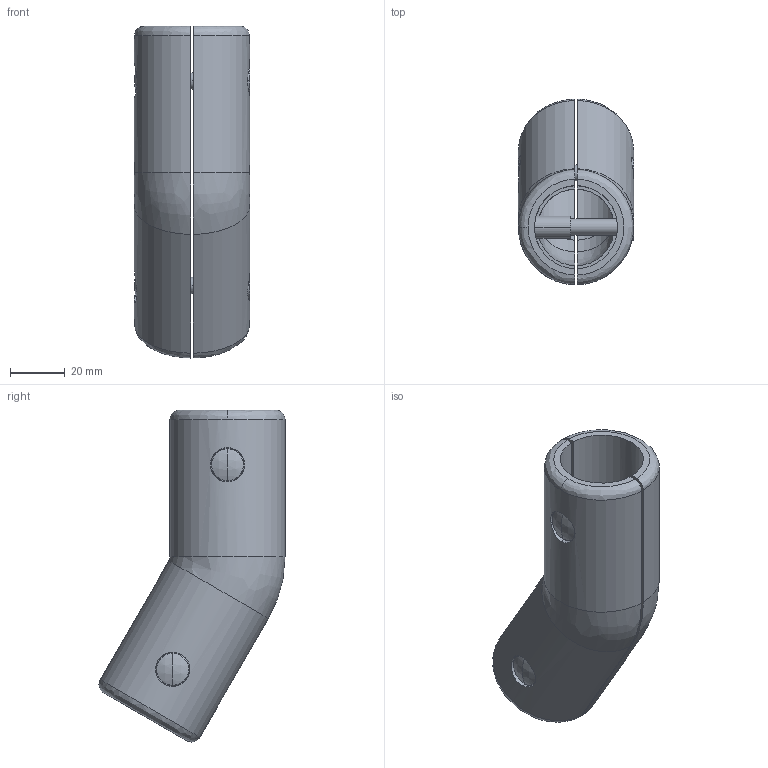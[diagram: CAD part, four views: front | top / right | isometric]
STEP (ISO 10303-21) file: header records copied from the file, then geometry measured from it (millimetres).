
FILE_DESCRIPTION (( 'STEP AP214' ), '1' );
FILE_NAME ('31000410028.STEP', '2024-09-02T09:39:10', ( '' ), ( '' ), 'SwSTEP 2.0', 'SolidWorks 2016', '' );
FILE_SCHEMA (( 'AUTOMOTIVE_DESIGN' ));
Length unit declared in the file: millimetre
Products named in the file (5): 31000410028; 2380_Schale 2; DIN 6912  (Regelgewinde) M6 x 25; 2380_Schale 1; 635179_H³lsenmutter
Assembly tree (6 placements, depth 2):
  31000410028
    2380_Schale 1
    2380_Schale 2
    635179_H³lsenmutter  x2
    DIN 6912  (Regelgewinde) M6 x 25  x2
Bounding box: 42 x 67.89 x 121.18 mm (x, y, z)
Volume: 82103.9 mm3; surface area: 34338.1 mm2
Topology: 6 solids, 6 shells, 129 faces, 312 edges, 198 vertices
Faces by surface type: cylinder 53, plane 38, cone 20, bspline 14, sphere 4
Entity records: 4810 total; most frequent: CARTESIAN_POINT 1446, DIRECTION 458, ORIENTED_EDGE 448, EDGE_CURVE 224, AXIS2_PLACEMENT_3D 183, VERTEX_POINT 147, EDGE_LOOP 107, UNCERTAINTY_MEASURE_WITH_UNIT 105
